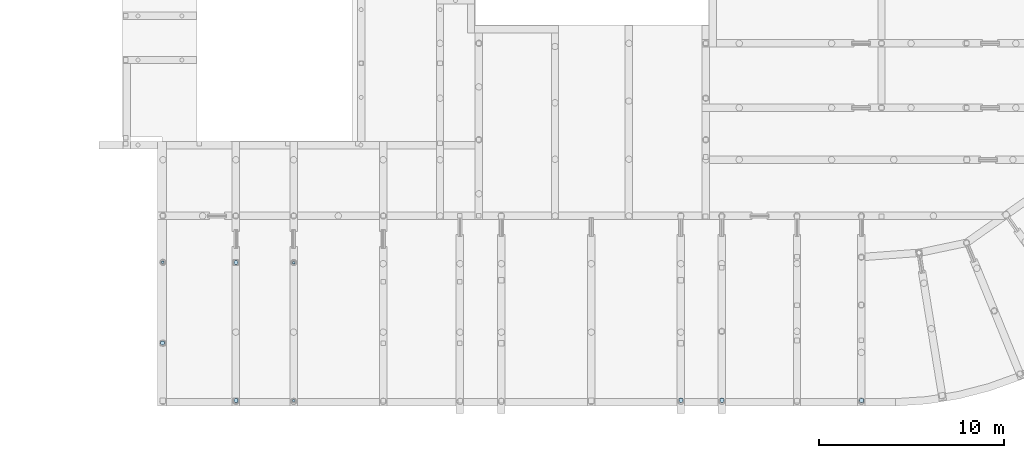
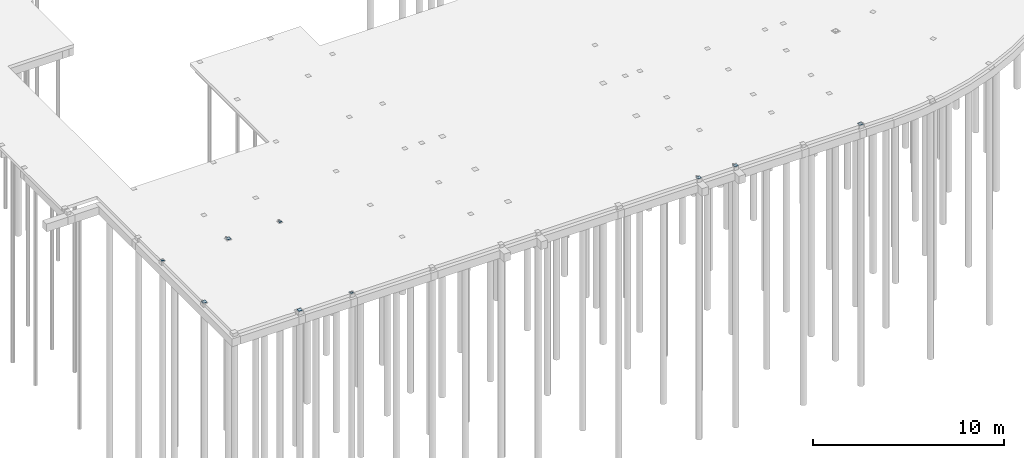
# One storey, part 7 of 22: 9 plates.
"""IFC2X3 building model written with IfcOpenShell, lengths in millimetres."""

import ifcopenshell
import ifcopenshell.guid

model = None  # the IFC model being written
_history = None  # IfcOwnerHistory: only IFC2X3 demands one
_inside = {}  # id of a spatial element -> (the spatial element, [elements in it])
_under = {}  # id of a project, library or spatial element -> (it, [spatial elements below it])
_declared = {}  # id of a project -> (the project, [libraries it declares])
_typed = {}  # id of a type object -> (the type object, [elements of that type])
_made_of = {}  # id of a material, layer set ... -> (it, [elements and type objects made of it])


def new_model(schema):
    """Start an empty IFC model of exactly this schema.

    Asked for "IFC4X3", IfcOpenShell would pick the latest addendum, in which some entities
    have other attributes; the version numbers below select the first issue.
    IFC2X3 requires an IfcOwnerHistory on every rooted entity: one is made here for all.
    """
    global model, _history
    if schema == "IFC4X3":
        model = ifcopenshell.file(schema_version=(4, 3, 0, 0))
    else:
        model = ifcopenshell.file(schema=schema)
    _inside.clear()
    _under.clear()
    _declared.clear()
    _typed.clear()
    _made_of.clear()
    _history = None
    if model.schema == "IFC2X3":
        org = make("IfcOrganization", Name="unknown")
        user = make(
            "IfcPersonAndOrganization",
            ThePerson=make("IfcPerson", FamilyName="unknown"),
            TheOrganization=org,
        )
        app = make(
            "IfcApplication",
            ApplicationDeveloper=org,
            Version="unknown",
            ApplicationFullName="unknown",
            ApplicationIdentifier="unknown",
        )
        _history = make(
            "IfcOwnerHistory",
            OwningUser=user,
            OwningApplication=app,
            ChangeAction="ADDED",
            CreationDate=0,
        )
    return model


def make(cls, **values):
    """One entity of the class cls with the attributes given. An attribute that is None is left unset."""
    return model.create_entity(
        cls, **{name: value for name, value in values.items() if value is not None}
    )


def rooted(cls, **values):
    """An entity with a GlobalId (a new one), such as an element, a storey or a relation."""
    return make(cls, GlobalId=ifcopenshell.guid.new(), OwnerHistory=_history, **values)


def si_unit(unit_type, name, prefix=None):
    """IfcSIUnit, for example si_unit("LENGTHUNIT", "METRE", prefix="MILLI")."""
    return make("IfcSIUnit", UnitType=unit_type, Prefix=prefix, Name=name)


def assignment(units):
    """IfcUnitAssignment: the units of a project."""
    return None if units is None else make("IfcUnitAssignment", Units=units)


def point(xyz):
    """IfcCartesianPoint."""
    return None if xyz is None else make("IfcCartesianPoint", Coordinates=xyz)


def direction(xyz):
    """IfcDirection."""
    return None if xyz is None else make("IfcDirection", DirectionRatios=xyz)


def frame(location, z_axis=None, x_axis=None):
    """IfcAxis2Placement3D, a coordinate frame: its origin and axes. An axis left out is left unset."""
    return make(
        "IfcAxis2Placement3D",
        Location=point(location),
        Axis=direction(z_axis),
        RefDirection=direction(x_axis),
    )


def origin_with_axes():
    """The frame at (0, 0, 0) with the z axis (0, 0, 1) and the x axis (1, 0, 0) written out."""
    return frame((0.0, 0.0, 0.0), z_axis=(0.0, 0.0, 1.0), x_axis=(1.0, 0.0, 0.0))


def place(relative_to, where):
    """IfcLocalPlacement: puts the frame where relative to a parent placement (None: the world)."""
    return make(
        "IfcLocalPlacement", PlacementRelTo=relative_to, RelativePlacement=where
    )


def context(
    kind, dimensions, precision=None, world=None, true_north=None, identifier=None
):
    """IfcGeometricRepresentationContext, for example the 3D "Model" context."""
    return make(
        "IfcGeometricRepresentationContext",
        ContextIdentifier=identifier,
        ContextType=kind,
        CoordinateSpaceDimension=dimensions,
        Precision=precision,
        WorldCoordinateSystem=world,
        TrueNorth=true_north,
    )


def subcontext(parent, identifier, kind, view, scale=None):
    """IfcGeometricRepresentationSubContext, for example "Body" below "Model"."""
    return make(
        "IfcGeometricRepresentationSubContext",
        ContextIdentifier=identifier,
        ContextType=kind,
        ParentContext=parent,
        TargetScale=scale,
        TargetView=view,
    )


def project(units=None, contexts=None):
    """IfcProject with its units and contexts."""
    return rooted(
        "IfcProject",
        Name="project",
        RepresentationContexts=contexts,
        UnitsInContext=assignment(units),
    )


def spatial(cls, under=None, at=None, **own):
    """A site, building, storey or space (cls), placed at a placement, below another one or the project."""
    s = rooted(cls, ObjectPlacement=at, **own)
    if under is not None:
        _under.setdefault(under.id(), (under, []))[1].append(s)
    return s


def polyline(points):
    """IfcPolyline through the points."""
    return make("IfcPolyline", Points=[point(p) for p in points])


def outline(outer, holes=None, kind="AREA"):
    """IfcArbitraryClosedProfileDef: a profile drawn as a closed curve; with holes, ...WithVoids."""
    if holes is None:
        return make("IfcArbitraryClosedProfileDef", ProfileType=kind, OuterCurve=outer)
    return make(
        "IfcArbitraryProfileDefWithVoids",
        ProfileType=kind,
        OuterCurve=outer,
        InnerCurves=holes,
    )


def extrude(swept, where, along, depth):
    """IfcExtrudedAreaSolid: the profile swept, set in the frame where, extruded along a direction by depth."""
    return make(
        "IfcExtrudedAreaSolid",
        SweptArea=swept,
        Position=where,
        ExtrudedDirection=direction(along),
        Depth=depth,
    )


def shape(context_of_items, identifier, shape_type, items):
    """IfcShapeRepresentation: the items that make up one representation, for example the "Body"."""
    return make(
        "IfcShapeRepresentation",
        ContextOfItems=context_of_items,
        RepresentationIdentifier=identifier,
        RepresentationType=shape_type,
        Items=items,
    )


def material(Name=None, Category=None):
    """IfcMaterial."""
    return make("IfcMaterial", Name=Name, Category=Category)


def made_of(thing, what):
    """Note that an element or type object is made of a material, layer set ...; save() writes the relation."""
    if what is not None:
        _made_of.setdefault(what.id(), (what, []))[1].append(thing)
    return thing


def type_object(cls, material=None, **own):
    """A type object (cls), such as IfcWallType, which elements share."""
    return made_of(rooted(cls, **own), material)


def element(
    cls,
    number,
    at=None,
    inside=None,
    cuts=None,
    type_object=None,
    material=None,
    context=None,
    identifier="Body",
    shape_type=None,
    held_by="IfcProductDefinitionShape",
    body=None,
    shapes=None,
    **own,
):
    """One element of the class cls, such as IfcWall. Its Tag is "e" and its number.

    at: its placement. inside: the storey or other place that contains it. cuts: it is an
    opening in that element (IfcRelVoidsElement). A single representation is given by context,
    identifier, shape_type and body (its items); several are given by shapes. held_by: the class
    of the entity that holds the representations. save() writes the other relations.
    """
    e = rooted(cls, Tag="e%d" % number, ObjectPlacement=at, **own)
    if body is not None:
        shapes = [shape(context, identifier, shape_type, body)]
    if shapes is not None:
        e.Representation = make(held_by, Representations=shapes)
    if inside is not None:
        _inside.setdefault(inside.id(), (inside, []))[1].append(e)
    if cuts is not None:
        rooted(
            "IfcRelVoidsElement", RelatingBuildingElement=cuts, RelatedOpeningElement=e
        )
    if type_object is not None:
        _typed.setdefault(type_object.id(), (type_object, []))[1].append(e)
    return made_of(e, material)


def aggregate(whole, parts):
    """IfcRelAggregates: a whole, such as a stair, and the parts it consists of."""
    return rooted("IfcRelAggregates", RelatingObject=whole, RelatedObjects=parts)


def save(model, path):
    """Write the relations noted so far, then the file.

    IfcRelAggregates (storeys below a building ...), IfcRelContainedInSpatialStructure (elements
    in a storey), IfcRelDefinesByType, IfcRelAssociatesMaterial and IfcRelDeclares: one each for
    every whole, place, type object, material and project.
    """
    for whole, parts in _under.values():
        aggregate(whole, parts)
    for where, things in _inside.values():
        rooted(
            "IfcRelContainedInSpatialStructure",
            RelatedElements=things,
            RelatingStructure=where,
        )
    for kind, things in _typed.values():
        rooted("IfcRelDefinesByType", RelatedObjects=things, RelatingType=kind)
    for what, things in _made_of.values():
        rooted("IfcRelAssociatesMaterial", RelatedObjects=things, RelatingMaterial=what)
    for by, libraries in _declared.values():
        rooted("IfcRelDeclares", RelatingContext=by, RelatedDefinitions=libraries)
    model.write(path)


model = new_model("IFC2X3")

# Units and contexts
model_context = context("Model", 3, precision=1e-05, world=origin_with_axes())
body_context = subcontext(model_context, "Body", "Model", "MODEL_VIEW")
ifc_project = project(units=[si_unit("LENGTHUNIT", "METRE", prefix="MILLI"), si_unit("AREAUNIT", "SQUARE_METRE"), si_unit("VOLUMEUNIT", "CUBIC_METRE"), si_unit("MASSUNIT", "GRAM", prefix="KILO"), si_unit("TIMEUNIT", "SECOND"), si_unit("PLANEANGLEUNIT", "RADIAN"), si_unit("SOLIDANGLEUNIT", "STERADIAN"), si_unit("THERMODYNAMICTEMPERATUREUNIT", "DEGREE_CELSIUS"), si_unit("LUMINOUSINTENSITYUNIT", "LUMEN")], contexts=[model_context])

# Site, building, storey
site_placement = place(None, origin_with_axes())
site = spatial("IfcSite", under=ifc_project, at=site_placement, Name="Undefined", CompositionType="ELEMENT")
building_placement = place(site_placement, origin_with_axes())
building = spatial("IfcBuilding", under=site, at=building_placement, Name="Undefined", CompositionType="ELEMENT")
storey_placement = place(building_placement, origin_with_axes())
storey = spatial("IfcBuildingStorey", under=building, at=storey_placement, Name="Undefined", CompositionType="ELEMENT", Elevation=0.0)

# Plates
ifc_material = material(Name="STEEL/S235JR")
plate_type_1 = type_object("IfcPlateType", Name="STRIP15*140", PredefinedType="NOTDEFINED")
plate_1_placement = place(storey_placement, frame((18631.9948343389, 7679.76587991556, -42.5), z_axis=(0.0, 0.0, 1.0), x_axis=(0.0, 1.0, 0.0)))
element("IfcPlate", 1, at=plate_1_placement, inside=storey, type_object=plate_type_1, material=ifc_material, Name="PLAAT", context=body_context, shape_type="SweptSolid", body=[
    extrude(outline(polyline([(0.0, 70.0), (140.0, 70.0), (140.0, -70.0), (0.0, -70.0), (0.0, 70.0)])), frame((0.0, 0.0, -7.49999999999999), z_axis=(0.0, 0.0, 1.0), x_axis=(1.0, 0.0, 0.0)), (0.0, 0.0, 1.0), 15.0),
])
plate_2_placement = place(storey_placement, frame((11472.0104288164, 7759.91806354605, -42.5), z_axis=(0.0, 0.0, 1.0), x_axis=(1.0, 0.0, 0.0)))
element("IfcPlate", 2, at=plate_2_placement, inside=storey, type_object=plate_type_1, material=ifc_material, Name="PLAAT", context=body_context, shape_type="SweptSolid", body=[
    extrude(outline(polyline([(0.0, -70.0), (0.0, 70.0), (140.0, 70.0), (140.0, -70.0), (0.0, -70.0)])), frame((0.0, 0.0, -7.49999999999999), z_axis=(0.0, 0.0, 1.0), x_axis=(1.0, 0.0, 0.0)), (0.0, 0.0, 1.0), 15.0),
])
plate_3_placement = place(storey_placement, frame((18638.6948343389, 204.621222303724, -42.5), z_axis=(0.0, 0.0, 1.0), x_axis=(0.0, 1.0, 0.0)))
element("IfcPlate", 3, at=plate_3_placement, inside=storey, type_object=plate_type_1, material=ifc_material, Name="PLAAT", context=body_context, shape_type="SweptSolid", body=[
    extrude(outline(polyline([(0.0, 70.0), (140.0, 70.0), (140.0, -70.0), (0.0, -70.0), (0.0, 70.0)])), frame((0.0, 0.0, -7.49999999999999), z_axis=(0.0, 0.0, 1.0), x_axis=(1.0, 0.0, 0.0)), (0.0, 0.0, 1.0), 15.0),
])
plate_type_2 = type_object("IfcPlateType", Name="STRIP15*220", PredefinedType="NOTDEFINED")
plate_4_placement = place(storey_placement, frame((49362.1203901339, 164.621214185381, -42.5), z_axis=(0.0, 0.0, 1.0), x_axis=(0.0, 1.0, 0.0)))
element("IfcPlate", 4, at=plate_4_placement, inside=storey, type_object=plate_type_2, material=ifc_material, Name="PLAAT", context=body_context, shape_type="SweptSolid", body=[
    extrude(outline(polyline([(0.0, 110.0), (220.0, 110.0), (220.0, -110.0), (0.0, -110.0), (0.0, 110.0)])), frame((0.0, 0.0, -7.49999999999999), z_axis=(0.0, 0.0, 1.0), x_axis=(1.0, 0.0, 0.0)), (0.0, 0.0, 1.0), 15.0),
])
for number, where, z_axis, x_axis in (
    (5, (39697.2795366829, 274.621222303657, -42.5), (0.0, 0.0, 1.0), (-1.0, 0.0, 0.0)),
    (6, (41917.2859170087, 274.621222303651, -42.5), (0.0, 0.0, 1.0), (-1.0, 0.0, 0.0)),
):
    element("IfcPlate", number, at=place(storey_placement, frame(where, z_axis=z_axis, x_axis=x_axis)), inside=storey, type_object=plate_type_2, material=ifc_material, Name="PLAAT", context=body_context, shape_type="SweptSolid", body=[
        extrude(outline(polyline([(220.0, 110.0), (220.0, -110.0), (0.0, -110.0), (0.0, 110.0), (220.0, 110.0)])), frame((0.0, 0.0, -7.49999999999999), z_axis=(0.0, 0.0, 1.0), x_axis=(1.0, 0.0, 0.0)), (0.0, 0.0, 1.0), 15.0),
    ])
for number, where, z_axis, x_axis in (
    (7, (15396.7104288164, 7753.91806354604, -42.5), (0.0, 0.0, 1.0), (1.0, 0.0, 0.0)),
    (8, (11432.0100631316, 3388.27671001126, -42.5), (0.0, 0.0, 1.0), (1.0, 0.0, 0.0)),
):
    element("IfcPlate", number, at=place(storey_placement, frame(where, z_axis=z_axis, x_axis=x_axis)), inside=storey, type_object=plate_type_2, material=ifc_material, Name="PLAAT", context=body_context, shape_type="SweptSolid", body=[
        extrude(outline(polyline([(0.0, -110.0), (0.0, 110.0), (220.0, 110.0), (220.0, -110.0), (0.0, -110.0)])), frame((0.0, 0.0, -7.49999999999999), z_axis=(0.0, 0.0, 1.0), x_axis=(1.0, 0.0, 0.0)), (0.0, 0.0, 1.0), 15.0),
    ])
plate_5_placement = place(storey_placement, frame((15506.7104288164, 164.72122230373, -62.5), z_axis=(0.0, 0.0, 1.0), x_axis=(0.0, 1.0, 0.0)))
element("IfcPlate", 9, at=plate_5_placement, inside=storey, type_object=plate_type_2, material=ifc_material, Name="PLAAT", context=body_context, shape_type="SweptSolid", body=[
    extrude(outline(polyline([(0.0, 110.0), (220.0, 110.0), (220.0, -110.0), (0.0, -110.0), (0.0, 110.0)])), frame((0.0, 0.0, -7.49999999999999), z_axis=(0.0, 0.0, 1.0), x_axis=(1.0, 0.0, 0.0)), (0.0, 0.0, 1.0), 15.0),
])

save(model, "model.ifc")
